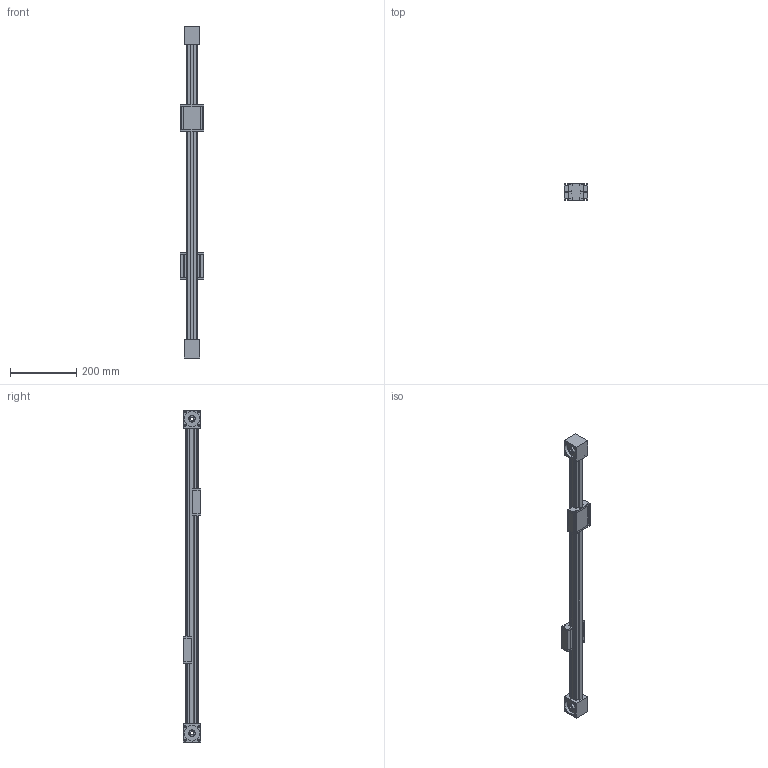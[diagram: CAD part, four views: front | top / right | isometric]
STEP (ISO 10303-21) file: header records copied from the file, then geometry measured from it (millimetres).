
FILE_DESCRIPTION (( 'STEP AP214' ), '1' );
FILE_NAME ('ELZG30.STEP', '2022-07-21T09:24:39', ( '' ), ( '' ), 'SwSTEP 2.0', 'SolidWorks 2020', '' );
FILE_SCHEMA (( 'AUTOMOTIVE_DESIGN' ));
Length unit declared in the file: millimetre
Products named in the file (5): timing belt reverse unit^ELZG30_coupling claw pos.2; timing belt reverse unit^ELZG30_coupling claw pos.1; carriage^ELZG30_carriage version 0; ELZG30; profile^ELZG30_4x guide rods
Assembly tree (5 placements, depth 2):
  ELZG30
    profile^ELZG30_4x guide rods
    carriage^ELZG30_carriage version 0  x2
    timing belt reverse unit^ELZG30_coupling claw pos.1
    timing belt reverse unit^ELZG30_coupling claw pos.2
Bounding box: 70 x 52 x 1000 mm (x, y, z)
Volume: 1197778.4 mm3; surface area: 354694.6 mm2
Topology: 15 solids, 15 shells, 492 faces, 1284 edges, 836 vertices
Faces by surface type: plane 310, cylinder 162, torus 8, sphere 8, cone 4
Entity records: 11294 total; most frequent: DIRECTION 1785, CARTESIAN_POINT 1728, ORIENTED_EDGE 1674, EDGE_CURVE 837, AXIS2_PLACEMENT_3D 607, LINE 571, VECTOR 571, VERTEX_POINT 550
